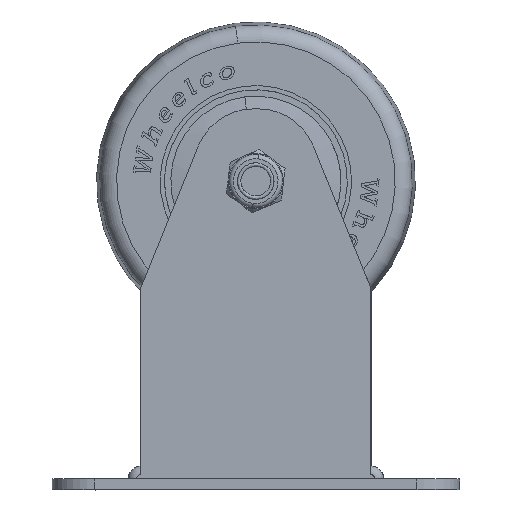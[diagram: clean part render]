
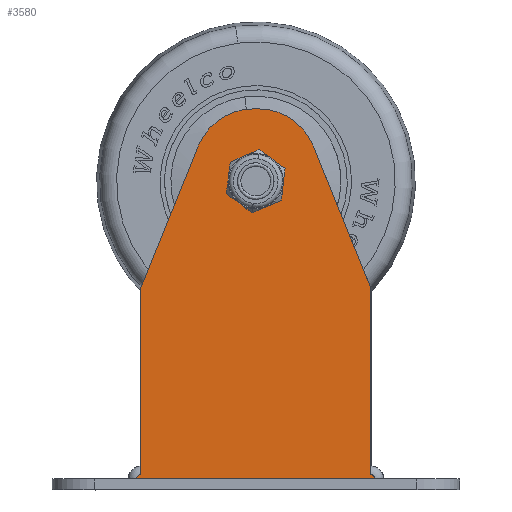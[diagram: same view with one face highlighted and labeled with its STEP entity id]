
A CAD part, top view. The second image highlights one B-rep face of the part: STEP entity #3580.
In plain terms, the highlighted planar face has unit normal (-0.002, 0, 1).
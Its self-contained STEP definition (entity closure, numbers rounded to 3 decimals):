
#5 = EDGE_CURVE ( 'NONE', #33118, #39969, #18624, .T. ) ;
#117 = DIRECTION ( 'NONE',  ( -0.375, 0.927, 0. ) ) ;
#423 = DIRECTION ( 'NONE',  ( 0., 0., -1. ) ) ;
#1360 = AXIS2_PLACEMENT_3D ( 'NONE', #8923, #37531, #25123 ) ;
#1498 = ORIENTED_EDGE ( 'NONE', *, *, #14452, .F. ) ;
#1893 = DIRECTION ( 'NONE',  ( 1., 0., 0. ) ) ;
#2058 = ORIENTED_EDGE ( 'NONE', *, *, #11843, .T. ) ;
#2133 = AXIS2_PLACEMENT_3D ( 'NONE', #15938, #29160, #22855 ) ;
#3071 = CARTESIAN_POINT ( 'NONE',  ( 43.759, 72.5, -10. ) ) ;
#3171 = EDGE_CURVE ( 'NONE', #33118, #23839, #36146, .T. ) ;
#3246 = AXIS2_PLACEMENT_3D ( 'NONE', #35098, #6292, #19123 ) ;
#3378 = CARTESIAN_POINT ( 'NONE',  ( 1.446, -0.585, -10. ) ) ;
#3580 = ADVANCED_FACE ( 'NONE', ( #21322, #6970 ), #18996, .F. ) ;
#3596 = CIRCLE ( 'NONE', #15097, 14. ) ;
#4241 = VERTEX_POINT ( 'NONE', #4924 ) ;
#4423 = VERTEX_POINT ( 'NONE', #22160 ) ;
#4924 = CARTESIAN_POINT ( 'NONE',  ( 20.909, 47.5, -10. ) ) ;
#5245 = CARTESIAN_POINT ( 'NONE',  ( 0., 89.5, -10. ) ) ;
#5276 = ORIENTED_EDGE ( 'NONE', *, *, #27275, .T. ) ;
#5551 = VERTEX_POINT ( 'NONE', #30638 ) ;
#5734 = CARTESIAN_POINT ( 'NONE',  ( 52.059, 72.5, -10. ) ) ;
#6292 = DIRECTION ( 'NONE',  ( 0., 0., -1. ) ) ;
#6366 = VECTOR ( 'NONE', #31624, 1000. ) ;
#6691 = CIRCLE ( 'NONE', #26830, 1. ) ;
#6915 = VECTOR ( 'NONE', #117, 1000. ) ;
#6970 = FACE_BOUND ( 'NONE', #36345, .T. ) ;
#6973 = VERTEX_POINT ( 'NONE', #5734 ) ;
#7332 = CARTESIAN_POINT ( 'NONE',  ( 47.909, 72.5, -10. ) ) ;
#7339 = DIRECTION ( 'NONE',  ( 0., -1., 0. ) ) ;
#8174 = ORIENTED_EDGE ( 'NONE', *, *, #5, .T. ) ;
#8533 = EDGE_CURVE ( 'NONE', #19129, #23839, #32332, .T. ) ;
#8537 = AXIS2_PLACEMENT_3D ( 'NONE', #22347, #38130, #25514 ) ;
#8923 = CARTESIAN_POINT ( 'NONE',  ( 47.909, 72.5, -10. ) ) ;
#10738 = CIRCLE ( 'NONE', #1360, 4.15 ) ;
#11803 = DIRECTION ( 'NONE',  ( 0., 0., 1. ) ) ;
#11843 = EDGE_CURVE ( 'NONE', #13065, #6973, #36748, .T. ) ;
#12022 = VECTOR ( 'NONE', #29281, 1000. ) ;
#12584 = AXIS2_PLACEMENT_3D ( 'NONE', #7332, #423, #26888 ) ;
#13065 = VERTEX_POINT ( 'NONE', #3071 ) ;
#14452 = EDGE_CURVE ( 'NONE', #18612, #5551, #35466, .T. ) ;
#15097 = AXIS2_PLACEMENT_3D ( 'NONE', #35152, #35970, #41462 ) ;
#15938 = CARTESIAN_POINT ( 'NONE',  ( 74.909, 2.5, -10. ) ) ;
#16462 = CARTESIAN_POINT ( 'NONE',  ( 20.909, 5.5, -10. ) ) ;
#17255 = CARTESIAN_POINT ( 'NONE',  ( 75.909, 2.5, -10. ) ) ;
#18612 = VERTEX_POINT ( 'NONE', #37163 ) ;
#18624 = LINE ( 'NONE', #19228, #6915 ) ;
#18996 = PLANE ( 'NONE',  #8537 ) ;
#19123 = DIRECTION ( 'NONE',  ( 1., 0., 0. ) ) ;
#19129 = VERTEX_POINT ( 'NONE', #17255 ) ;
#19146 = DIRECTION ( 'NONE',  ( -0.375, -0.927, 0. ) ) ;
#19228 = CARTESIAN_POINT ( 'NONE',  ( 80.884, 32.739, -10. ) ) ;
#19586 = ORIENTED_EDGE ( 'NONE', *, *, #27032, .T. ) ;
#20479 = VERTEX_POINT ( 'NONE', #27262 ) ;
#21174 = ORIENTED_EDGE ( 'NONE', *, *, #38296, .T. ) ;
#21322 = FACE_OUTER_BOUND ( 'NONE', #28825, .T. ) ;
#22160 = CARTESIAN_POINT ( 'NONE',  ( 48.472, 89.5, -10. ) ) ;
#22347 = CARTESIAN_POINT ( 'NONE',  ( 20.909, 5.5, -10. ) ) ;
#22855 = DIRECTION ( 'NONE',  ( -1., 0., 0. ) ) ;
#23667 = ORIENTED_EDGE ( 'NONE', *, *, #28073, .T. ) ;
#23839 = VERTEX_POINT ( 'NONE', #39355 ) ;
#24804 = LINE ( 'NONE', #5245, #29982 ) ;
#25123 = DIRECTION ( 'NONE',  ( -1., 0., 0. ) ) ;
#25514 = DIRECTION ( 'NONE',  ( -1., 0., 0. ) ) ;
#26335 = LINE ( 'NONE', #16462, #12022 ) ;
#26455 = ORIENTED_EDGE ( 'NONE', *, *, #3171, .F. ) ;
#26830 = AXIS2_PLACEMENT_3D ( 'NONE', #30940, #11803, #40593 ) ;
#26888 = DIRECTION ( 'NONE',  ( -1., 0., 0. ) ) ;
#27032 = EDGE_CURVE ( 'NONE', #38503, #20479, #6691, .T. ) ;
#27262 = CARTESIAN_POINT ( 'NONE',  ( 19.909, 2.5, -10. ) ) ;
#27275 = EDGE_CURVE ( 'NONE', #18612, #4241, #35324, .T. ) ;
#27385 = CARTESIAN_POINT ( 'NONE',  ( 61.45, 80.753, -10. ) ) ;
#28073 = EDGE_CURVE ( 'NONE', #6973, #13065, #10738, .T. ) ;
#28825 = EDGE_LOOP ( 'NONE', ( #5276, #21174, #19586, #35664, #41351, #26455, #8174, #39670, #31671, #1498 ) ) ;
#29160 = DIRECTION ( 'NONE',  ( 0., 0., 1. ) ) ;
#29281 = DIRECTION ( 'NONE',  ( 0., -1., 0. ) ) ;
#29842 = CARTESIAN_POINT ( 'NONE',  ( 74.909, 5.5, -10. ) ) ;
#29982 = VECTOR ( 'NONE', #1893, 1000. ) ;
#30262 = EDGE_CURVE ( 'NONE', #4423, #39969, #3596, .T. ) ;
#30638 = CARTESIAN_POINT ( 'NONE',  ( 47.346, 89.5, -10. ) ) ;
#30940 = CARTESIAN_POINT ( 'NONE',  ( 20.909, 2.5, -10. ) ) ;
#31624 = DIRECTION ( 'NONE',  ( 1., 0., 0. ) ) ;
#31671 = ORIENTED_EDGE ( 'NONE', *, *, #33381, .F. ) ;
#31705 = EDGE_CURVE ( 'NONE', #20479, #19129, #35166, .T. ) ;
#32332 = CIRCLE ( 'NONE', #2133, 1. ) ;
#33118 = VERTEX_POINT ( 'NONE', #40589 ) ;
#33381 = EDGE_CURVE ( 'NONE', #5551, #4423, #24804, .T. ) ;
#34920 = VECTOR ( 'NONE', #19146, 1000. ) ;
#35098 = CARTESIAN_POINT ( 'NONE',  ( 47.346, 75.5, -10. ) ) ;
#35152 = CARTESIAN_POINT ( 'NONE',  ( 48.472, 75.5, -10. ) ) ;
#35166 = LINE ( 'NONE', #40866, #6366 ) ;
#35324 = LINE ( 'NONE', #3378, #34920 ) ;
#35466 = CIRCLE ( 'NONE', #3246, 14. ) ;
#35664 = ORIENTED_EDGE ( 'NONE', *, *, #31705, .T. ) ;
#35970 = DIRECTION ( 'NONE',  ( 0., 0., -1. ) ) ;
#36146 = LINE ( 'NONE', #29842, #38046 ) ;
#36345 = EDGE_LOOP ( 'NONE', ( #2058, #23667 ) ) ;
#36748 = CIRCLE ( 'NONE', #12584, 4.15 ) ;
#36941 = CARTESIAN_POINT ( 'NONE',  ( 20.909, 3.5, -10. ) ) ;
#37163 = CARTESIAN_POINT ( 'NONE',  ( 34.369, 80.753, -10. ) ) ;
#37531 = DIRECTION ( 'NONE',  ( 0., 0., -1. ) ) ;
#38046 = VECTOR ( 'NONE', #7339, 1000. ) ;
#38130 = DIRECTION ( 'NONE',  ( 0., 0., -1. ) ) ;
#38296 = EDGE_CURVE ( 'NONE', #4241, #38503, #26335, .T. ) ;
#38503 = VERTEX_POINT ( 'NONE', #36941 ) ;
#39355 = CARTESIAN_POINT ( 'NONE',  ( 74.909, 3.5, -10. ) ) ;
#39670 = ORIENTED_EDGE ( 'NONE', *, *, #30262, .F. ) ;
#39969 = VERTEX_POINT ( 'NONE', #27385 ) ;
#40589 = CARTESIAN_POINT ( 'NONE',  ( 74.909, 47.5, -10. ) ) ;
#40593 = DIRECTION ( 'NONE',  ( -1., 0., 0. ) ) ;
#40866 = CARTESIAN_POINT ( 'NONE',  ( 20.909, 2.5, -10. ) ) ;
#41351 = ORIENTED_EDGE ( 'NONE', *, *, #8533, .T. ) ;
#41462 = DIRECTION ( 'NONE',  ( 1., 0., 0. ) ) ;
